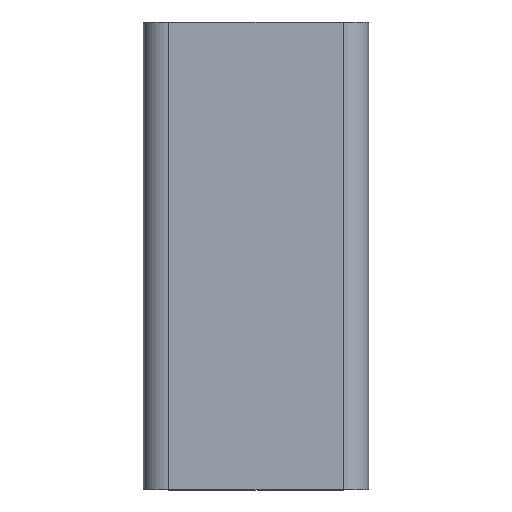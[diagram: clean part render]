
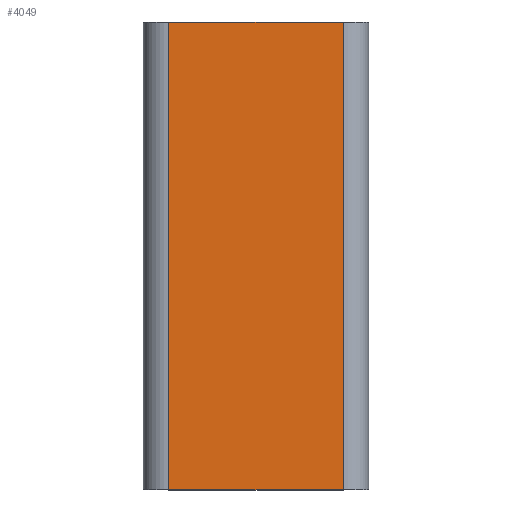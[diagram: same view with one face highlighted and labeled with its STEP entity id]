
A CAD part, top view. The second image highlights one B-rep face of the part: STEP entity #4049.
In plain terms, the highlighted planar face has unit normal (0, 0, 1).
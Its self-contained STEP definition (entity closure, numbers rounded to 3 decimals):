
#84 = CARTESIAN_POINT ( 'NONE',  ( -157.325, 5.541, 202.863 ) ) ;
#118 = EDGE_CURVE ( 'NONE', #3809, #4417, #2908, .T. ) ;
#473 = CARTESIAN_POINT ( 'NONE',  ( -157.325, -836.909, 202.863 ) ) ;
#687 = CARTESIAN_POINT ( 'NONE',  ( -157.325, 5.541, 202.863 ) ) ;
#697 = VECTOR ( 'NONE', #4777, 1000. ) ;
#945 = DIRECTION ( 'NONE',  ( 0., 0., 1. ) ) ;
#1529 = EDGE_CURVE ( 'NONE', #2517, #4417, #2231, .T. ) ;
#1610 = ORIENTED_EDGE ( 'NONE', *, *, #4787, .T. ) ;
#1690 = ORIENTED_EDGE ( 'NONE', *, *, #1529, .T. ) ;
#1906 = LINE ( 'NONE', #1964, #3699 ) ;
#1964 = CARTESIAN_POINT ( 'NONE',  ( -157.325, -836.909, 202.863 ) ) ;
#1996 = CARTESIAN_POINT ( 'NONE',  ( 157.325, 5.541, 202.863 ) ) ;
#2067 = LINE ( 'NONE', #3610, #697 ) ;
#2121 = VECTOR ( 'NONE', #2428, 1000. ) ;
#2231 = LINE ( 'NONE', #2815, #2121 ) ;
#2428 = DIRECTION ( 'NONE',  ( 0., 1., 0. ) ) ;
#2469 = EDGE_CURVE ( 'NONE', #3764, #3809, #1906, .T. ) ;
#2494 = CARTESIAN_POINT ( 'NONE',  ( -157.325, -836.909, 202.863 ) ) ;
#2517 = VERTEX_POINT ( 'NONE', #2897 ) ;
#2815 = CARTESIAN_POINT ( 'NONE',  ( 157.325, -836.909, 202.863 ) ) ;
#2897 = CARTESIAN_POINT ( 'NONE',  ( 157.325, -836.909, 202.863 ) ) ;
#2908 = LINE ( 'NONE', #687, #4828 ) ;
#3238 = DIRECTION ( 'NONE',  ( 0., 1., 0. ) ) ;
#3433 = DIRECTION ( 'NONE',  ( 1., 0., 0. ) ) ;
#3610 = CARTESIAN_POINT ( 'NONE',  ( -157.325, -836.909, 202.863 ) ) ;
#3633 = PLANE ( 'NONE',  #5015 ) ;
#3650 = DIRECTION ( 'NONE',  ( 1., 0., 0. ) ) ;
#3681 = EDGE_LOOP ( 'NONE', ( #4812, #4469, #1610, #1690 ) ) ;
#3699 = VECTOR ( 'NONE', #3238, 1000. ) ;
#3764 = VERTEX_POINT ( 'NONE', #473 ) ;
#3809 = VERTEX_POINT ( 'NONE', #84 ) ;
#3930 = FACE_OUTER_BOUND ( 'NONE', #3681, .T. ) ;
#4049 = ADVANCED_FACE ( 'NONE', ( #3930 ), #3633, .T. ) ;
#4417 = VERTEX_POINT ( 'NONE', #1996 ) ;
#4469 = ORIENTED_EDGE ( 'NONE', *, *, #2469, .F. ) ;
#4777 = DIRECTION ( 'NONE',  ( 1., 0., 0. ) ) ;
#4787 = EDGE_CURVE ( 'NONE', #3764, #2517, #2067, .T. ) ;
#4812 = ORIENTED_EDGE ( 'NONE', *, *, #118, .F. ) ;
#4828 = VECTOR ( 'NONE', #3433, 1000. ) ;
#5015 = AXIS2_PLACEMENT_3D ( 'NONE', #2494, #945, #3650 ) ;
